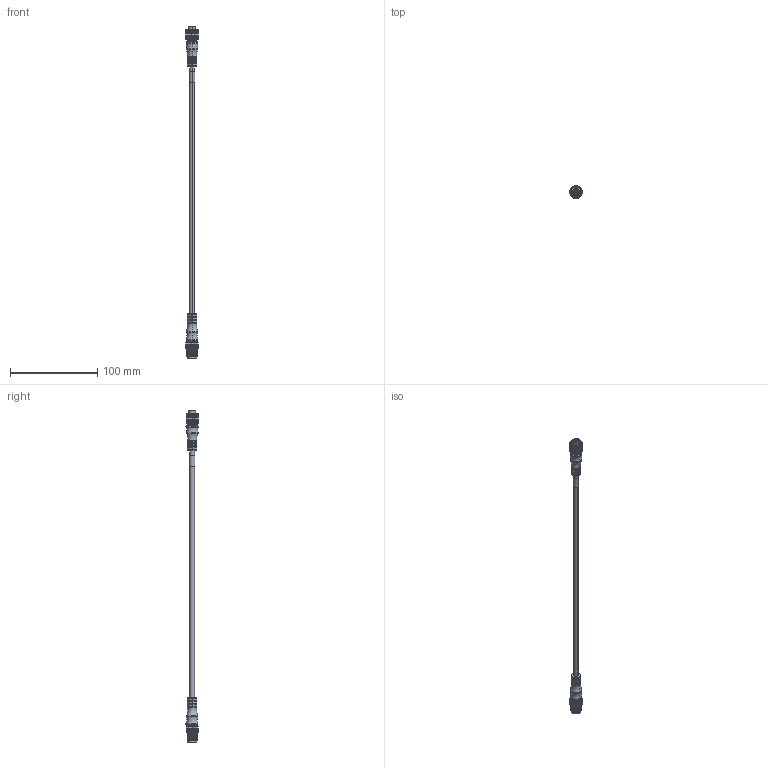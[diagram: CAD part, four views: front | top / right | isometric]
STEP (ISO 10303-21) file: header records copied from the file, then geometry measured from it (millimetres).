
FILE_DESCRIPTION((''),'2;1');
FILE_NAME('889D-F4FCDM-2','2013-11-29T',('20019289'),('Rockwell Automation'),'PRO/ENGINEER BY PARAMETRIC TECHNOLOGY CORPORATION, 2010140','PRO/ENGINEER BY PARAMETRIC TECHNOLOGY CORPORATION, 2010140','');
FILE_SCHEMA(('CONFIG_CONTROL_DESIGN'));
Length unit declared in the file: inch
Products named in the file (1): 889D-F4FCDM-2
Bounding box: 14 x 14.25 x 381 mm (x, y, z)
Volume: 16128.8 mm3; surface area: 11776.6 mm2
Topology: 1 solids, 1 shells, 1075 faces, 2598 edges, 1555 vertices
Faces by surface type: plane 501, cylinder 410, cone 112, torus 52
Entity records: 31907 total; most frequent: CARTESIAN_POINT 6509, DIRECTION 5590, ORIENTED_EDGE 5196, EDGE_CURVE 2598, AXIS2_PLACEMENT_3D 2137, VERTEX_POINT 1555, VECTOR 1316, LINE 1316
